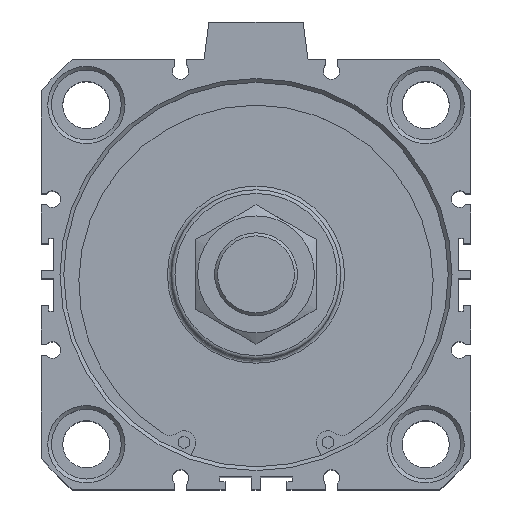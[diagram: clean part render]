
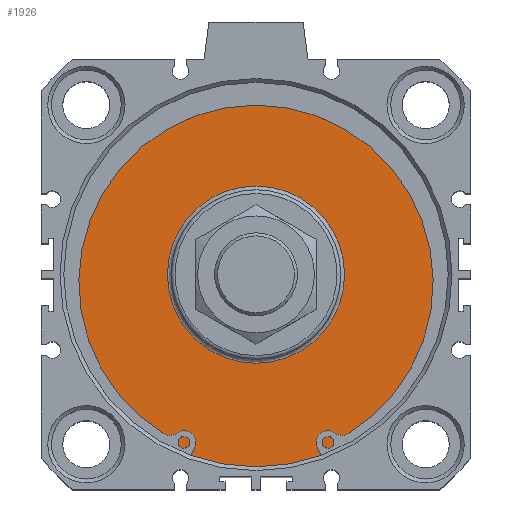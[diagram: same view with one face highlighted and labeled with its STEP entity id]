
A CAD part, top view. The second image highlights one B-rep face of the part: STEP entity #1926.
In plain terms, the highlighted planar face has unit normal (0, 0, 1).
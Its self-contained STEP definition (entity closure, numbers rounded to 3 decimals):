
#1875=CARTESIAN_POINT('',(-3.11,25.175,77.6));
#1876=VERTEX_POINT('',#1875);
#1877=CARTESIAN_POINT('',(-3.11,1.675,77.6));
#1878=DIRECTION('',(0.0,0.0,1.0));
#1879=DIRECTION('',(0.0,-1.0,0.0));
#1880=AXIS2_PLACEMENT_3D('',#1877,#1878,#1879);
#1881=CIRCLE('',#1880,23.5);
#1882=EDGE_CURVE('',#1876,#1876,#1881,.T.);
#1907=CARTESIAN_POINT('',(-3.11,38.425,77.6));
#1908=DIRECTION('',(0.0,0.0,1.0));
#1909=DIRECTION('',(1.0,0.0,0.0));
#1910=AXIS2_PLACEMENT_3D('',#1907,#1908,#1909);
#1911=PLANE('',#1910);
#1912=CARTESIAN_POINT('',(-3.11,52.675,77.6));
#1913=VERTEX_POINT('',#1912);
#1914=CARTESIAN_POINT('',(-3.11,1.675,77.6));
#1915=DIRECTION('',(0.0,0.0,-1.0));
#1916=DIRECTION('',(0.0,1.0,0.0));
#1917=AXIS2_PLACEMENT_3D('',#1914,#1915,#1916);
#1918=CIRCLE('',#1917,51.0);
#1919=EDGE_CURVE('',#1913,#1913,#1918,.T.);
#1920=ORIENTED_EDGE('',*,*,#1919,.F.);
#1921=EDGE_LOOP('',(#1920));
#1922=FACE_OUTER_BOUND('',#1921,.T.);
#1923=ORIENTED_EDGE('',*,*,#1882,.F.);
#1924=EDGE_LOOP('',(#1923));
#1925=FACE_BOUND('',#1924,.T.);
#1926=ADVANCED_FACE('',(#1922,#1925),#1911,.T.);
